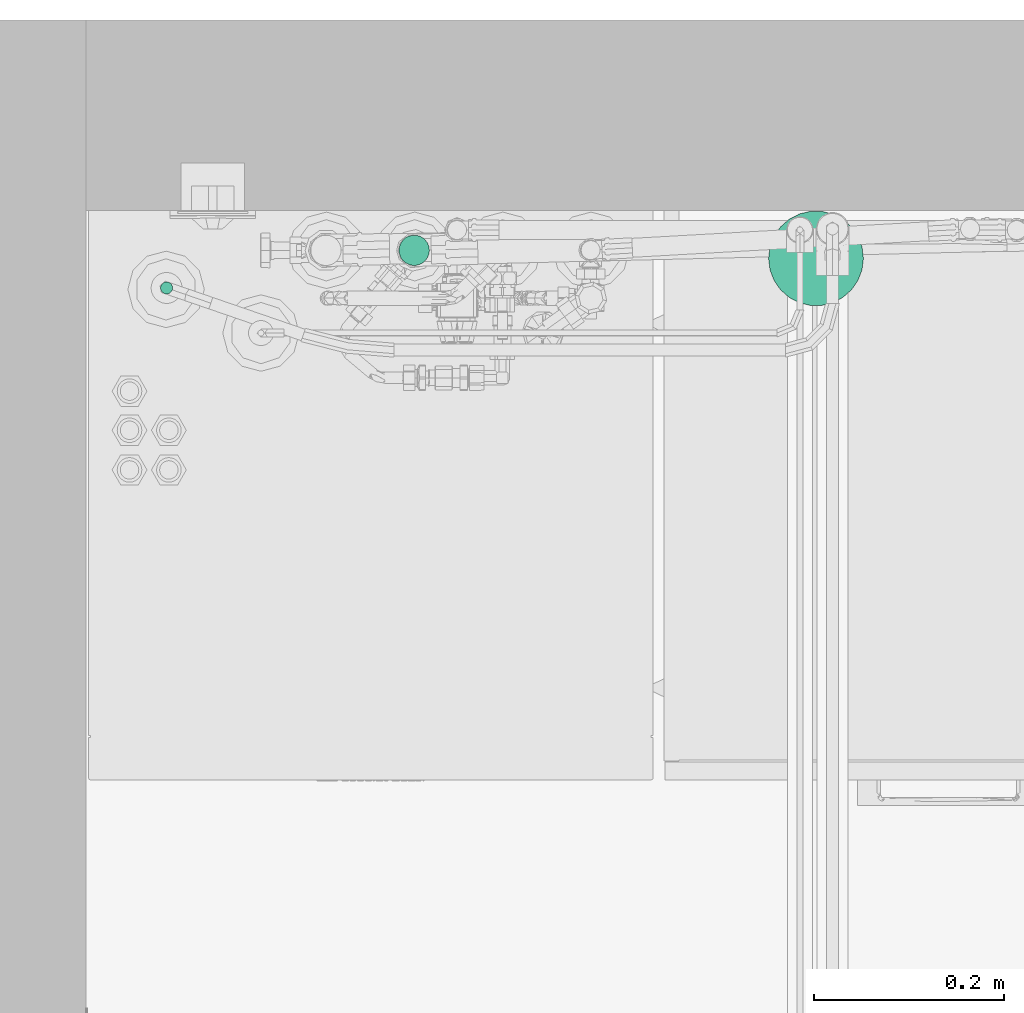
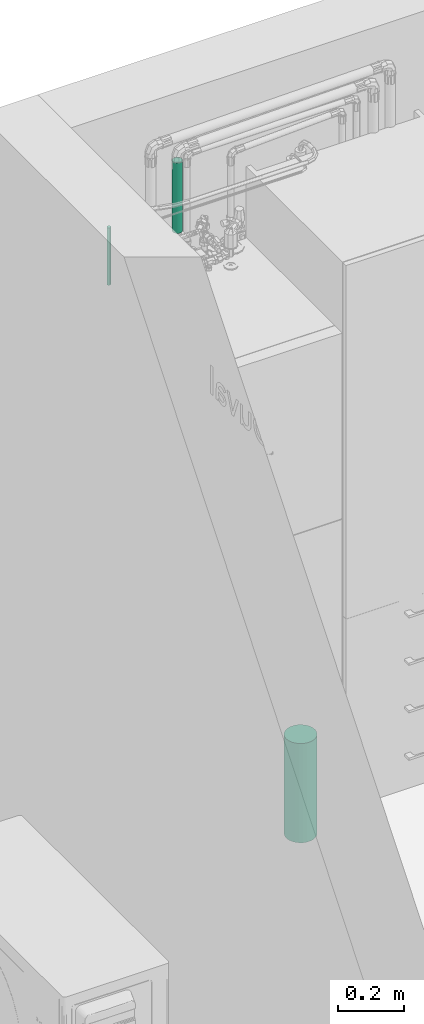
# One storey, part 18 of 30: 3 flow segments.
"""IFC2X3 building model written with IfcOpenShell, lengths in metres."""

from ifc_helpers import new_model, entity, si_unit, converted_unit, derived_unit, direction, frame, origin, origin_2d_with_axis, place, context, subcontext, project, spatial, circle, extrude, material, type_object, element, save


model = new_model("IFC2X3")

# Units and contexts
model_context = context("Model", 3, precision=1e-05, world=origin(), true_north=direction((6.123031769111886e-17, 1.0)))
body_context = subcontext(model_context, "Body", "Model", "MODEL_VIEW")
ifc_project = project(units=[si_unit("LENGTHUNIT", "METRE"), si_unit("AREAUNIT", "SQUARE_METRE"), si_unit("VOLUMEUNIT", "CUBIC_METRE"), converted_unit("PLANEANGLEUNIT", "DEGREE", entity("IfcPlaneAngleMeasure", 0.017453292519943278), si_unit("PLANEANGLEUNIT", "RADIAN"), dimensions=[0, 0, 0, 0, 0, 0, 0]), si_unit("MASSUNIT", "GRAM", prefix="KILO"), derived_unit("MASSDENSITYUNIT", [(si_unit("MASSUNIT", "GRAM", prefix="KILO"), 1), (si_unit("LENGTHUNIT", "METRE"), -3)]), derived_unit("IONCONCENTRATIONUNIT", [(si_unit("MASSUNIT", "GRAM", prefix="KILO"), 1), (si_unit("LENGTHUNIT", "METRE"), -3)]), derived_unit("MOMENTOFINERTIAUNIT", [(si_unit("LENGTHUNIT", "METRE"), 4)]), si_unit("TIMEUNIT", "SECOND"), si_unit("FREQUENCYUNIT", "HERTZ"), si_unit("THERMODYNAMICTEMPERATUREUNIT", "DEGREE_CELSIUS"), derived_unit("THERMALTRANSMITTANCEUNIT", [(si_unit("MASSUNIT", "GRAM", prefix="KILO"), 1), (si_unit("THERMODYNAMICTEMPERATUREUNIT", "KELVIN"), -1), (si_unit("TIMEUNIT", "SECOND"), -3)]), derived_unit("THERMALCONDUCTANCEUNIT", [(si_unit("MASSUNIT", "GRAM", prefix="KILO"), 1), (si_unit("THERMODYNAMICTEMPERATUREUNIT", "KELVIN"), -1), (si_unit("TIMEUNIT", "SECOND"), -3), (si_unit("LENGTHUNIT", "METRE"), 1)]), derived_unit("VOLUMETRICFLOWRATEUNIT", [(si_unit("LENGTHUNIT", "METRE", prefix="DECI"), 3), (si_unit("TIMEUNIT", "SECOND"), -1)]), derived_unit("MASSFLOWRATEUNIT", [(si_unit("MASSUNIT", "GRAM", prefix="KILO"), 1), (si_unit("TIMEUNIT", "SECOND"), -1)]), derived_unit("ROTATIONALFREQUENCYUNIT", [(si_unit("TIMEUNIT", "SECOND"), -1)]), si_unit("ELECTRICCURRENTUNIT", "AMPERE"), si_unit("ELECTRICVOLTAGEUNIT", "VOLT"), si_unit("POWERUNIT", "WATT"), si_unit("FORCEUNIT", "NEWTON", prefix="KILO"), si_unit("ILLUMINANCEUNIT", "LUX"), si_unit("LUMINOUSFLUXUNIT", "LUMEN"), si_unit("LUMINOUSINTENSITYUNIT", "CANDELA"), si_unit("ENERGYUNIT", "JOULE"), derived_unit("USERDEFINED", [(si_unit("MASSUNIT", "GRAM", prefix="KILO"), -1), (si_unit("LENGTHUNIT", "METRE"), -2), (si_unit("TIMEUNIT", "SECOND"), 3), (si_unit("LUMINOUSFLUXUNIT", "LUMEN"), 1)]), derived_unit("USERDEFINED", [(si_unit("MASSUNIT", "GRAM", prefix="KILO"), 1), (si_unit("TIMEUNIT", "SECOND"), -3), (si_unit("LENGTHUNIT", "METRE"), 3), (si_unit("ELECTRICCURRENTUNIT", "AMPERE"), -2)]), derived_unit("SOUNDPOWERUNIT", [(si_unit("MASSUNIT", "GRAM", prefix="KILO"), 1), (si_unit("TIMEUNIT", "SECOND"), -3), (si_unit("LENGTHUNIT", "METRE"), 2)]), derived_unit("SOUNDPRESSUREUNIT", [(si_unit("MASSUNIT", "GRAM", prefix="KILO"), 1), (si_unit("LENGTHUNIT", "METRE"), -1), (si_unit("TIMEUNIT", "SECOND"), -2)]), derived_unit("LINEARVELOCITYUNIT", [(si_unit("LENGTHUNIT", "METRE"), 1), (si_unit("TIMEUNIT", "SECOND"), -1)]), si_unit("PRESSUREUNIT", "PASCAL"), derived_unit("USERDEFINED", [(si_unit("MASSUNIT", "GRAM", prefix="KILO"), 1), (si_unit("LENGTHUNIT", "METRE"), -2), (si_unit("TIMEUNIT", "SECOND"), -2)]), derived_unit("LINEARFORCEUNIT", [(si_unit("MASSUNIT", "GRAM", prefix="KILO"), 1), (si_unit("TIMEUNIT", "SECOND"), -2)]), derived_unit("PLANARFORCEUNIT", [(si_unit("MASSUNIT", "GRAM", prefix="KILO"), 1), (si_unit("LENGTHUNIT", "METRE"), -1), (si_unit("TIMEUNIT", "SECOND"), -2)]), derived_unit("SPECIFICHEATCAPACITYUNIT", [(si_unit("THERMODYNAMICTEMPERATUREUNIT", "KELVIN"), -1), (si_unit("LENGTHUNIT", "METRE"), 2), (si_unit("TIMEUNIT", "SECOND"), -2)]), derived_unit("HEATFLUXDENSITYUNIT", [(si_unit("MASSUNIT", "GRAM", prefix="KILO"), 1), (si_unit("TIMEUNIT", "SECOND"), -3)]), derived_unit("HEATINGVALUEUNIT", [(si_unit("LENGTHUNIT", "METRE"), 2), (si_unit("TIMEUNIT", "SECOND"), -2)]), derived_unit("VAPORPERMEABILITYUNIT", [(si_unit("LENGTHUNIT", "METRE"), -1), (si_unit("TIMEUNIT", "SECOND"), 1)]), derived_unit("DYNAMICVISCOSITYUNIT", [(si_unit("MASSUNIT", "GRAM", prefix="KILO"), 1), (si_unit("TIMEUNIT", "SECOND"), -1), (si_unit("LENGTHUNIT", "METRE"), -1)]), derived_unit("THERMALEXPANSIONCOEFFICIENTUNIT", [(si_unit("THERMODYNAMICTEMPERATUREUNIT", "KELVIN"), -1)]), derived_unit("MODULUSOFELASTICITYUNIT", [(si_unit("MASSUNIT", "GRAM", prefix="KILO"), 1), (si_unit("LENGTHUNIT", "METRE"), -1), (si_unit("TIMEUNIT", "SECOND"), -2)]), derived_unit("ISOTHERMALMOISTURECAPACITYUNIT", [(si_unit("MASSUNIT", "GRAM", prefix="KILO"), -1), (si_unit("LENGTHUNIT", "METRE"), 3)]), derived_unit("MOISTUREDIFFUSIVITYUNIT", [(si_unit("TIMEUNIT", "SECOND"), -1), (si_unit("LENGTHUNIT", "METRE"), 2)]), derived_unit("MASSPERLENGTHUNIT", [(si_unit("MASSUNIT", "GRAM", prefix="KILO"), 1), (si_unit("LENGTHUNIT", "METRE"), -1)]), derived_unit("THERMALRESISTANCEUNIT", [(si_unit("MASSUNIT", "GRAM", prefix="KILO"), -1), (si_unit("TIMEUNIT", "SECOND"), 3), (si_unit("THERMODYNAMICTEMPERATUREUNIT", "KELVIN"), 1)]), derived_unit("ACCELERATIONUNIT", [(si_unit("LENGTHUNIT", "METRE"), 1), (si_unit("TIMEUNIT", "SECOND"), -2)]), derived_unit("ANGULARVELOCITYUNIT", [(si_unit("TIMEUNIT", "SECOND"), -1), (si_unit("PLANEANGLEUNIT", "RADIAN"), 1)]), derived_unit("LINEARSTIFFNESSUNIT", [(si_unit("MASSUNIT", "GRAM", prefix="KILO"), 1), (si_unit("TIMEUNIT", "SECOND"), -2)]), derived_unit("WARPINGCONSTANTUNIT", [(si_unit("LENGTHUNIT", "METRE"), 6)]), derived_unit("LINEARMOMENTUNIT", [(si_unit("MASSUNIT", "GRAM", prefix="KILO"), 1), (si_unit("LENGTHUNIT", "METRE"), 1), (si_unit("TIMEUNIT", "SECOND"), -2)]), derived_unit("TORQUEUNIT", [(si_unit("MASSUNIT", "GRAM", prefix="KILO"), 1), (si_unit("LENGTHUNIT", "METRE"), 2), (si_unit("TIMEUNIT", "SECOND"), -2)])], contexts=[model_context])

# Site, building, storey
site_placement = place(None, origin())
site = spatial("IfcSite", under=ifc_project, at=site_placement, Name="Default", CompositionType="ELEMENT")
building_placement = place(site_placement, origin())
building = spatial("IfcBuilding", under=site, at=building_placement, CompositionType="ELEMENT")
storey_placement = place(building_placement, origin())
storey = spatial("IfcBuildingStorey", under=building, at=storey_placement, Name="Niveau 0", CompositionType="ELEMENT", Elevation=-1.949160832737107e-14)

# Flow segments
ifc_material = material(Name="Porte - Panneau")
pipe_segment_type_1 = type_object("IfcPipeSegmentType", Name="Canalisation:PVC - NF", PredefinedType="NOTDEFINED")
flow_segment_1_placement = place(storey_placement, origin())
element("IfcFlowSegment", 1, at=flow_segment_1_placement, inside=storey, type_object=pipe_segment_type_1, material=ifc_material, Name="Canalisation:PVC - NF", ObjectType="Canalisation:PVC - NF", context=body_context, shape_type="SweptSolid", body=[
    extrude(circle(Radius=0.05, at=origin_2d_with_axis()), frame((-19.84616613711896, 2.8182628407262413, -0.33334698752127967)), (0.0, 0.0, 1.0), 0.365),
])
pipe_segment_type_2 = type_object("IfcPipeSegmentType", Name="Canalisation:Cuivre Frigo", PredefinedType="NOTDEFINED")
flow_segment_2_placement = place(storey_placement, origin())
element("IfcFlowSegment", 2, at=flow_segment_2_placement, inside=storey, type_object=pipe_segment_type_2, Name="Canalisation:Cuivre Frigo", ObjectType="Canalisation:Cuivre Frigo", context=body_context, shape_type="SweptSolid", body=[
    extrude(circle(Radius=0.00635, at=origin_2d_with_axis()), frame((-20.530759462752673, 2.787065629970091, 1.9450000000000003), z_axis=(0.0, 0.0, 1.0), x_axis=(-1.0, 0.0, 0.0)), (0.0, 0.0, 1.0), 0.21083793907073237),
])
pipe_segment_type_3 = type_object("IfcPipeSegmentType", Name="Canalisation:COMAP MULTISKIN - SKINPRESS PPSU", PredefinedType="NOTDEFINED")
flow_segment_3_placement = place(storey_placement, origin())
element("IfcFlowSegment", 3, at=flow_segment_3_placement, inside=storey, type_object=pipe_segment_type_3, Name="Canalisation:COMAP MULTISKIN - SKINPRESS PPSU", ObjectType="Canalisation:COMAP MULTISKIN - SKINPRESS PPSU", context=body_context, shape_type="SweptSolid", body=[
    extrude(circle(Radius=0.016, at=origin_2d_with_axis()), frame((-20.26974857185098, 2.8267264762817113, 2.0269999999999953), z_axis=(0.0, 0.0, 1.0), x_axis=(-1.0, 0.0, 0.0)), (0.0, 0.0, 1.0), 0.2583379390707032),
])

save(model, "model.ifc")
